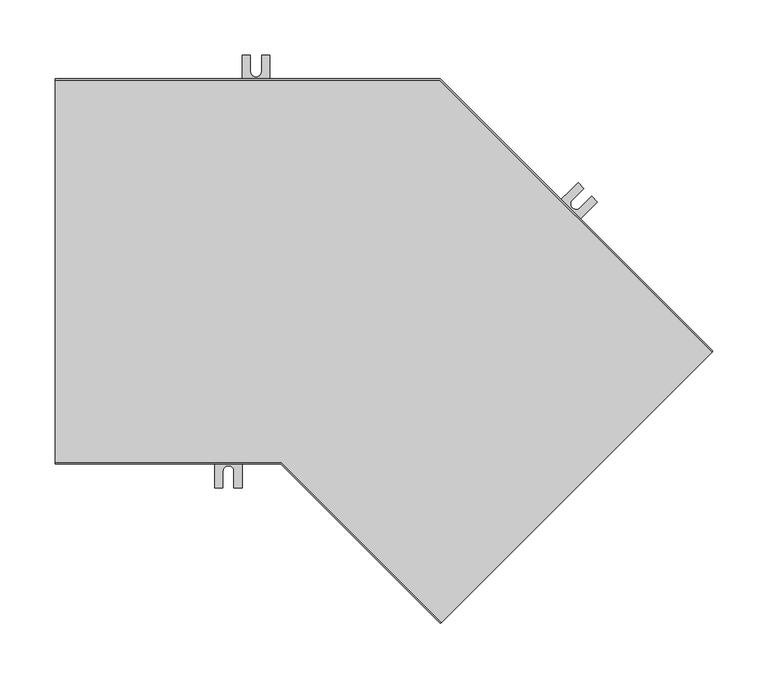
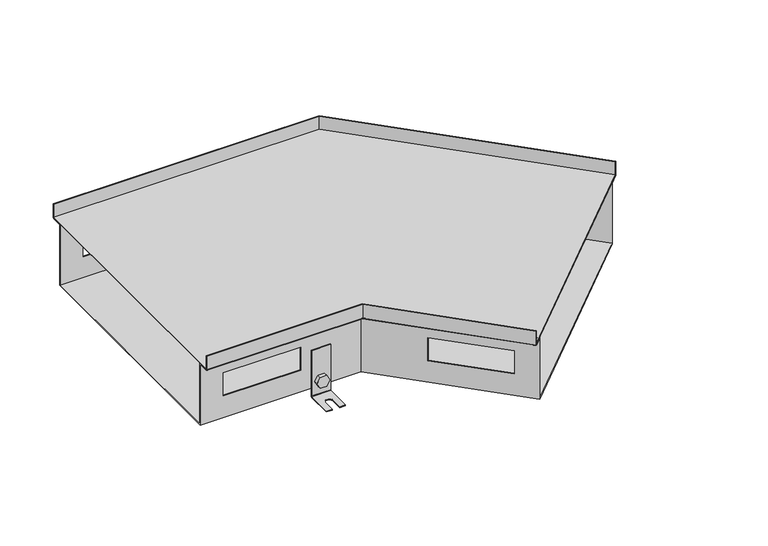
"""IFC4 building model written with IfcOpenShell, lengths in millimetres: proxy geometry, TECHNO_Угловой элемент_KVU : 350_105_135°."""

from ifc_helpers import new_model, si_unit, point, frame, frame_2d, origin, place, context, project, spatial, polyline, circle_curve, ellipse_curve, trimmed, segment, composite_curve, outline, extrude, source, transform, mapped, element, save
from ifc_brep_helpers import plane_surface, cylinder_surface, revolved_surface, advanced_brep


def mechanical_equipment_52aff5d5(model_context):
    return source(origin(), model_context, "Body", "SolidModel", [
        extrude(outline(composite_curve([segment(trimmed(circle_curve(frame_2d((0.0, -7.5000001)), 7.5), [point((0.0, -15.0))], [point((0.0, 0.0))], False, "CARTESIAN"), True, "CONTINUOUS"), segment(trimmed(circle_curve(frame_2d((0.0, -7.5000001)), 7.5), [point((0.0, 0.0))], [point((0.0, -15.0))], False, "CARTESIAN"), True, "CONTINUOUS")], self_intersect=False)), frame((422.4077344, -35.4349781, -95.5), z_axis=(0.7071067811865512, 0.7071067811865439, 0.0), x_axis=(0.0, 0.0, 1.0)), (0.0, 0.0, 1.0), 1.5),
        extrude(outline(polyline([(0.0, 0.0), (8.660254, 0.0), (12.990381, -7.5), (8.660254, -15.0), (0.0, -15.0), (-4.330127, -7.5), (0.0, 0.0)])), frame((406.5259365, -28.4627256, -95.5), z_axis=(0.7071067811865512, 0.7071067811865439, 0.0), x_axis=(0.3535533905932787, -0.3535533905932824, -0.8660254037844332)), (0.0, 0.0, 1.0), 5.1),
        advanced_brep(
        [(425.0947402, -39.8190401, -50.5), (425.0947402, -39.8190401, -113.5), (424.5290547, -40.3847255, -114.3), (401.194531, -63.7192493, -114.3), (401.194531, -63.7192493, -115.5), (424.5290547, -40.3847255, -115.5), (425.9432683, -38.970512, -113.5), (425.9432683, -38.970512, -50.5), (407.4170706, -22.1413706, -50.5), (408.2655988, -21.2928425, -50.5), (408.2655988, -21.2928425, -113.5), (406.8513852, -22.707056, -115.5), (383.5168614, -46.0415798, -115.5), (383.5168614, -46.0415798, -114.3), (406.8513852, -22.707056, -114.3), (407.4170706, -22.1413706, -113.5), (388.8201623, -51.3448807, -114.3), (399.426764, -40.7382789, -114.3), (406.4978318, -47.8093468, -114.3), (395.8912301, -58.4159485, -114.3), (395.8912301, -58.4159485, -115.5), (388.8201623, -51.3448807, -115.5), (406.4978318, -47.8093468, -115.5), (399.426764, -40.7382789, -115.5)],
        [
            (0, 1),
            (1, 2, circle_curve(frame((424.5290547, -40.3847255, -113.5), z_axis=(-0.7071067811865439, 0.7071067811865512, 0.0), x_axis=(-0.7071067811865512, -0.7071067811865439, 0.0)), 0.8)),
            (2, 3),
            (3, 4),
            (4, 5),
            (5, 6, circle_curve(frame((424.5290547, -40.3847255, -113.5), z_axis=(0.7071067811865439, -0.7071067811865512, 0.0), x_axis=(-0.7071067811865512, -0.7071067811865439, 0.0)), 2.0)),
            (6, 7),
            (7, 0),
            (8, 9),
            (9, 10),
            (10, 11, circle_curve(frame((406.8513852, -22.707056, -113.5), z_axis=(-0.7071067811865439, 0.7071067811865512, 0.0), x_axis=(-0.7071067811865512, -0.7071067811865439, 0.0)), 2.0)),
            (11, 12),
            (12, 13),
            (13, 14),
            (14, 15, circle_curve(frame((406.8513852, -22.707056, -113.5), z_axis=(0.7071067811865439, -0.7071067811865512, 0.0), x_axis=(-0.7071067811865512, -0.7071067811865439, 0.0)), 0.8)),
            (15, 8),
            (0, 8),
            (15, 1),
            (14, 2),
            (13, 16),
            (16, 17),
            (17, 18, circle_curve(frame((402.9622979, -44.2738128, -114.3), z_axis=(0.0, 0.0, -1.0), x_axis=(0.7071067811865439, -0.7071067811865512, 0.0)), 5.0)),
            (18, 19),
            (19, 3),
            (19, 20),
            (20, 4),
            (12, 21),
            (21, 16),
            (20, 22),
            (22, 23, circle_curve(frame((402.9622979, -44.2738128, -115.5), z_axis=(0.0, 0.0, 1.0), x_axis=(0.7071067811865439, -0.7071067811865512, 0.0)), 5.0)),
            (23, 21),
            (11, 5),
            (10, 6),
            (9, 7),
            (23, 17),
            (18, 22),
        ],
        [
            plane_surface(frame((425.0947402, -39.8190401, -50.5), z_axis=(0.7071067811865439, -0.7071067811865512, 0.0), x_axis=(0.0, 0.0, -1.0))),
            plane_surface(frame((407.4170706, -22.1413706, -50.5), z_axis=(-0.7071067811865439, 0.7071067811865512, 0.0), x_axis=(0.0, 0.0, 1.0))),
            plane_surface(frame((425.0947402, -39.8190401, -50.5), z_axis=(-0.7071067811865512, -0.7071067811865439, 0.0), x_axis=(-0.7071067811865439, 0.7071067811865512, 0.0))),
            revolved_surface(polyline([(406.2856997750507, -23.27274142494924, -113.5), (423.9633693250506, -40.950410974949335, -113.5)]), (406.8513852, -22.707056, -113.5), (-0.7071067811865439, 0.7071067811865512, 0.0)),
            plane_surface(frame((424.5290547, -40.3847255, -114.3), z_axis=(0.0, 0.0, 1.0), x_axis=(-0.7071067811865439, 0.7071067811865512, 0.0))),
            plane_surface(frame((401.194531, -63.7192493, -114.3), z_axis=(-0.7071067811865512, -0.7071067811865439, 0.0), x_axis=(-0.7071067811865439, 0.7071067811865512, 0.0))),
            plane_surface(frame((401.194531, -63.7192493, -115.5), z_axis=(0.0, 0.0, -1.0), x_axis=(-0.7071067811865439, 0.7071067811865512, 0.0))),
            cylinder_surface(frame((406.8513852, -22.707056, -113.5), z_axis=(0.7071067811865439, -0.7071067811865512, 0.0), x_axis=(-0.7071067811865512, -0.7071067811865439, 0.0)), 2.0),
            plane_surface(frame((425.9432683, -38.970512, -113.5), z_axis=(0.7071067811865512, 0.7071067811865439, 0.0), x_axis=(-0.7071067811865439, 0.7071067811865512, 0.0))),
            plane_surface(frame((425.9432683, -38.970512, -50.5), z_axis=(0.0, 0.0, 1.0), x_axis=(-0.7071067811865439, 0.7071067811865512, 0.0))),
            plane_surface(frame((399.426764, -40.7382789, -114.3), z_axis=(0.7071067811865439, -0.7071067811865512, 0.0), x_axis=(0.0, 0.0, -1.0))),
            plane_surface(frame((395.8912301, -58.4159485, -114.3), z_axis=(-0.707106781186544, 0.7071067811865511, 0.0), x_axis=(0.0, 0.0, -1.0))),
            revolved_surface(polyline([(406.4978318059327, -47.80934670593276, -114.3), (406.4978318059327, -47.80934670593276, -115.5)]), (402.9622979, -44.2738128, -115.5), (0.0, 0.0, 1.0)),
        ],
        [
            (0, [[1, 2, 3, 4, 5, 6, 7, 8]]),
            (1, [[9, 10, 11, 12, 13, 14, 15, 16]]),
            (2, [[-1, 17, -16, 18]]),
            (3, [[-2, -18, -15, 19]]),
            (4, [[-3, -19, -14, 20, 21, 22, 23, 24]]),
            (5, [[-4, -24, 25, 26]]),
            (5, [[-13, 27, 28, -20]]),
            (6, [[-5, -26, 29, 30, 31, -27, -12, 32]]),
            (7, [[-6, -32, -11, 33]]),
            (8, [[-7, -33, -10, 34]]),
            (9, [[-8, -34, -9, -17]]),
            (10, [[35, -21, -28, -31]]),
            (11, [[36, -29, -25, -23]]),
            (12, [[-35, -30, -36, -22]]),
        ],
    ),
        extrude(outline(composite_curve([segment(trimmed(circle_curve(frame_2d((0.0, -7.5)), 7.5), [point((0.0, -15.0))], [point((0.0, 0.0))], False, "CARTESIAN"), True, "CONTINUOUS"), segment(trimmed(circle_curve(frame_2d((0.0, -7.5)), 7.5), [point((0.0, 0.0))], [point((0.0, -15.0))], False, "CARTESIAN"), True, "CONTINUOUS")], self_intersect=False)), frame((452.6719046, 51.3977346, -95.5), z_axis=(0.7071067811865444, 0.7071067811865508, 0.0), x_axis=(0.0, 0.0, -1.0)), (0.0, 0.0, 1.0), 1.5),
        extrude(outline(polyline([(0.0, 0.0), (4.330127, -7.5), (0.0, -15.0000001), (-8.6602541, -15.0000001), (-12.9903811, -7.5000001), (-8.6602541, 0.0), (0.0, 0.0)])), frame((466.0081182, 41.8798977, -95.5), z_axis=(0.7071067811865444, 0.7071067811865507, 0.0), x_axis=(0.35355339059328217, -0.35355339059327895, 0.8660254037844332)), (0.0, 0.0, 1.0), 5.1),
        advanced_brep(
        [(451.045559, 56.8424569, -50.5), (451.045559, 56.8424569, -113.5), (451.6112445, 57.4081423, -114.3), (474.9457682, 80.7426661, -114.3), (474.9457682, 80.7426661, -115.5), (451.6112445, 57.4081423, -115.5), (450.1970309, 55.9939287, -113.5), (450.1970309, 55.9939287, -50.5), (468.7232286, 39.1647873, -50.5), (467.8747004, 38.3162592, -50.5), (467.8747004, 38.3162592, -113.5), (469.288914, 39.7304728, -115.5), (492.6234378, 63.0649965, -115.5), (492.6234378, 63.0649965, -114.3), (469.288914, 39.7304728, -114.3), (468.7232286, 39.1647873, -113.5), (487.3201369, 68.3682974, -114.3), (476.7135352, 57.7616957, -114.3), (469.6424674, 64.8327635, -114.3), (480.2490691, 75.4393652, -114.3), (480.2490691, 75.4393652, -115.5), (487.3201369, 68.3682974, -115.5), (469.6424674, 64.8327635, -115.5), (476.7135352, 57.7616957, -115.5)],
        [
            (0, 1),
            (1, 2, circle_curve(frame((451.6112445, 57.4081423, -113.5), z_axis=(0.7071067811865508, -0.7071067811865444, 0.0), x_axis=(0.7071067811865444, 0.7071067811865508, 0.0)), 0.8)),
            (2, 3),
            (3, 4),
            (4, 5),
            (5, 6, circle_curve(frame((451.6112445, 57.4081423, -113.5), z_axis=(-0.7071067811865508, 0.7071067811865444, 0.0), x_axis=(0.7071067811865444, 0.7071067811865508, 0.0)), 2.0)),
            (6, 7),
            (7, 0),
            (8, 9),
            (9, 10),
            (10, 11, circle_curve(frame((469.288914, 39.7304728, -113.5), z_axis=(0.7071067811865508, -0.7071067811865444, 0.0), x_axis=(0.7071067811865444, 0.7071067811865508, 0.0)), 2.0)),
            (11, 12),
            (12, 13),
            (13, 14),
            (14, 15, circle_curve(frame((469.288914, 39.7304728, -113.5), z_axis=(-0.7071067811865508, 0.7071067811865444, 0.0), x_axis=(0.7071067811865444, 0.7071067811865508, 0.0)), 0.8)),
            (15, 8),
            (0, 8),
            (15, 1),
            (14, 2),
            (13, 16),
            (16, 17),
            (17, 18, circle_curve(frame((473.1780013, 61.2972296, -114.3), z_axis=(0.0, 0.0, -1.0), x_axis=(-0.7071067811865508, 0.7071067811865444, 0.0)), 5.0)),
            (18, 19),
            (19, 3),
            (19, 20),
            (20, 4),
            (12, 21),
            (21, 16),
            (20, 22),
            (22, 23, circle_curve(frame((473.1780013, 61.2972296, -115.5), z_axis=(0.0, 0.0, 1.0), x_axis=(-0.7071067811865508, 0.7071067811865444, 0.0)), 5.0)),
            (23, 21),
            (11, 5),
            (10, 6),
            (9, 7),
            (23, 17),
            (18, 22),
        ],
        [
            plane_surface(frame((451.045559, 56.8424569, -50.5), z_axis=(-0.7071067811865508, 0.7071067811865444, 0.0), x_axis=(0.0, 0.0, -1.0))),
            plane_surface(frame((468.7232286, 39.1647873, -50.5), z_axis=(0.7071067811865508, -0.7071067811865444, 0.0), x_axis=(0.0, 0.0, 1.0))),
            plane_surface(frame((451.045559, 56.8424569, -50.5), z_axis=(0.7071067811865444, 0.7071067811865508, 0.0), x_axis=(0.7071067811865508, -0.7071067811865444, 0.0))),
            revolved_surface(polyline([(469.8545994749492, 40.29615817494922, -113.5), (452.1769298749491, 57.97382777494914, -113.5)]), (469.288914, 39.7304728, -113.5), (0.7071067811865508, -0.7071067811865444, 0.0)),
            plane_surface(frame((451.6112445, 57.4081423, -114.3), z_axis=(0.0, 0.0, 1.0000000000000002), x_axis=(0.7071067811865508, -0.7071067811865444, 0.0))),
            plane_surface(frame((474.9457682, 80.7426661, -114.3), z_axis=(0.7071067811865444, 0.7071067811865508, 0.0), x_axis=(0.7071067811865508, -0.7071067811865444, 0.0))),
            plane_surface(frame((474.9457682, 80.7426661, -115.5), z_axis=(0.0, 0.0, -1.0000000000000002), x_axis=(0.7071067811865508, -0.7071067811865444, 0.0))),
            cylinder_surface(frame((469.288914, 39.7304728, -113.5), z_axis=(-0.7071067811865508, 0.7071067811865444, 0.0), x_axis=(0.7071067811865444, 0.7071067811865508, 0.0)), 2.0),
            plane_surface(frame((450.1970309, 55.9939287, -113.5), z_axis=(-0.7071067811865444, -0.7071067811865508, 0.0), x_axis=(0.7071067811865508, -0.7071067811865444, 0.0))),
            plane_surface(frame((450.1970309, 55.9939287, -50.5), z_axis=(0.0, 0.0, 1.0000000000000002), x_axis=(0.7071067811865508, -0.7071067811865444, 0.0))),
            plane_surface(frame((476.7135352, 57.7616957, -114.3), z_axis=(-0.7071067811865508, 0.7071067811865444, 0.0), x_axis=(0.0, 0.0, -1.0))),
            plane_surface(frame((480.2490691, 75.4393652, -114.3), z_axis=(0.7071067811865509, -0.7071067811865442, 0.0), x_axis=(0.0, 0.0, -1.0))),
            revolved_surface(polyline([(469.64246739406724, 64.83276350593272, -114.3), (469.64246739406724, 64.83276350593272, -115.5)]), (473.1780013, 61.2972296, -115.5), (0.0, 0.0, 1.0)),
        ],
        [
            (0, [[1, 2, 3, 4, 5, 6, 7, 8]]),
            (1, [[9, 10, 11, 12, 13, 14, 15, 16]]),
            (2, [[-1, 17, -16, 18]]),
            (3, [[-2, -18, -15, 19]]),
            (4, [[-3, -19, -14, 20, 21, 22, 23, 24]]),
            (5, [[-4, -24, 25, 26]]),
            (5, [[-13, 27, 28, -20]]),
            (6, [[-5, -26, 29, 30, 31, -27, -12, 32]]),
            (7, [[-6, -32, -11, 33]]),
            (8, [[-7, -33, -10, 34]]),
            (9, [[-8, -34, -9, -17]]),
            (10, [[35, -21, -28, -31]]),
            (11, [[36, -29, -25, -23]]),
            (12, [[-35, -30, -36, -22]]),
        ],
    ),
        extrude(outline(composite_curve([segment(trimmed(circle_curve(frame_2d((-95.5, 182.5)), 7.5), [point((-95.5, 175.0))], [point((-95.5, 190.0))], False, "CARTESIAN"), True, "CONTINUOUS"), segment(trimmed(circle_curve(frame_2d((-95.5, 182.5)), 7.5), [point((-95.5, 190.0))], [point((-95.5, 175.0))], False, "CARTESIAN"), True, "CONTINUOUS")], self_intersect=False)), frame((0.0, 160.2, 0.0), z_axis=(0.0, 1.0, 0.0), x_axis=(0.0, 0.0, 1.0)), (0.0, 0.0, 1.0), 1.5),
        extrude(outline(polyline([(-95.5, 173.839746), (-103.0, 178.169873), (-103.0, 186.830127), (-95.5, 191.160254), (-88.0, 186.830127), (-88.0, 178.169873), (-95.5, 173.839746)])), frame((0.0, 162.9, 0.0), z_axis=(0.0, 1.0, 0.0), x_axis=(0.0, 0.0, 1.0)), (0.0, 0.0, 1.0), 5.1),
        advanced_brep(
        [(195.0, 162.9, -50.5), (195.0, 161.7, -50.5), (195.0, 161.7, -113.5), (195.0, 163.7, -115.5), (195.0, 196.7, -115.5), (195.0, 196.7, -114.3), (195.0, 163.7, -114.3), (195.0, 162.9, -113.5), (170.0, 162.9, -50.5), (170.0, 162.9, -113.5), (170.0, 163.7, -114.3), (170.0, 196.7, -114.3), (170.0, 196.7, -115.5), (170.0, 163.7, -115.5), (170.0, 161.7, -113.5), (170.0, 161.7, -50.5), (187.5, 196.7, -114.3), (187.5, 181.7, -114.3), (177.5, 181.7, -114.3), (177.5, 196.7, -114.3), (177.5, 196.7, -115.5), (187.5, 196.7, -115.5), (177.5, 181.7, -115.5), (187.5, 181.7, -115.5)],
        [
            (0, 1),
            (1, 2),
            (2, 3, circle_curve(frame((195.0, 163.7, -113.5), z_axis=(1.0, 0.0, 0.0), x_axis=(0.0, 1.0, 0.0)), 2.0)),
            (3, 4),
            (4, 5),
            (5, 6),
            (6, 7, circle_curve(frame((195.0, 163.7, -113.5), z_axis=(-1.0, 0.0, 0.0), x_axis=(0.0, 1.0, 0.0)), 0.8)),
            (7, 0),
            (8, 9),
            (9, 10, circle_curve(frame((170.0, 163.7, -113.5), z_axis=(1.0, 0.0, 0.0), x_axis=(0.0, 1.0, 0.0)), 0.8)),
            (10, 11),
            (11, 12),
            (12, 13),
            (13, 14, circle_curve(frame((170.0, 163.7, -113.5), z_axis=(-1.0, 0.0, 0.0), x_axis=(0.0, 1.0, 0.0)), 2.0)),
            (14, 15),
            (15, 8),
            (7, 9),
            (8, 0),
            (6, 10),
            (5, 16),
            (16, 17),
            (17, 18, circle_curve(frame((182.5, 181.7, -114.3), z_axis=(0.0, 0.0, -1.0), x_axis=(1.0, 0.0, 0.0)), 5.0)),
            (18, 19),
            (19, 11),
            (19, 20),
            (20, 12),
            (4, 21),
            (21, 16),
            (3, 13),
            (20, 22),
            (22, 23, circle_curve(frame((182.5, 181.7, -115.5), z_axis=(0.0, 0.0, 1.0), x_axis=(1.0, 0.0, 0.0)), 5.0)),
            (23, 21),
            (2, 14),
            (1, 15),
            (18, 22),
            (23, 17),
        ],
        [
            plane_surface(frame((195.0, 162.9, -50.5), z_axis=(1.0, 0.0, 0.0), x_axis=(0.0, 0.0, -1.0))),
            plane_surface(frame((170.0, 162.9, -50.5), z_axis=(-1.0, 0.0, 0.0), x_axis=(0.0, 0.0, 1.0))),
            plane_surface(frame((195.0, 162.9, -50.5), z_axis=(0.0, 1.0, 0.0), x_axis=(-1.0, 0.0, 0.0))),
            revolved_surface(polyline([(170.0, 164.5, -113.5), (195.0, 164.5, -113.5)]), (170.0, 163.7, -113.5), (-1.0, 0.0, 0.0)),
            plane_surface(frame((195.0, 163.7, -114.3), z_axis=(0.0, 0.0, 1.0), x_axis=(-1.0, 0.0, 0.0))),
            plane_surface(frame((195.0, 196.7, -114.3), z_axis=(0.0, 1.0, 0.0), x_axis=(-1.0, 0.0, 0.0))),
            plane_surface(frame((195.0, 196.7, -115.5), z_axis=(0.0, 0.0, -1.0), x_axis=(-1.0, 0.0, 0.0))),
            cylinder_surface(frame((170.0, 163.7, -113.5), z_axis=(1.0, 0.0, 0.0), x_axis=(0.0, 1.0, 0.0)), 2.0),
            plane_surface(frame((195.0, 161.7, -113.5), z_axis=(0.0, -1.0, 0.0), x_axis=(-1.0, 0.0, 0.0))),
            plane_surface(frame((195.0, 161.7, -50.5), z_axis=(0.0, 0.0, 1.0), x_axis=(-1.0, 0.0, 0.0))),
            plane_surface(frame((177.5, 181.7, -114.3), z_axis=(1.0, 0.0, 0.0), x_axis=(0.0, 0.0, -1.0))),
            plane_surface(frame((187.5, 196.7, -114.3), z_axis=(-1.0, 0.0, 0.0), x_axis=(0.0, 0.0, -1.0))),
            revolved_surface(polyline([(187.5, 181.7, -114.3), (187.5, 181.7, -115.5)]), (182.5, 181.7, -115.5), (0.0, 0.0, 1.0)),
        ],
        [
            (0, [[1, 2, 3, 4, 5, 6, 7, 8]]),
            (1, [[9, 10, 11, 12, 13, 14, 15, 16]]),
            (2, [[17, -9, 18, -8]]),
            (3, [[19, -10, -17, -7]]),
            (4, [[20, 21, 22, 23, 24, -11, -19, -6]]),
            (5, [[-24, 25, 26, -12]]),
            (5, [[27, 28, -20, -5]]),
            (6, [[29, -13, -26, 30, 31, 32, -27, -4]]),
            (7, [[33, -14, -29, -3]]),
            (8, [[34, -15, -33, -2]]),
            (9, [[-18, -16, -34, -1]]),
            (10, [[-30, -25, -23, 35]]),
            (11, [[-21, -28, -32, 36]]),
            (12, [[-22, -36, -31, -35]]),
        ],
    ),
        extrude(outline(composite_curve([segment(trimmed(circle_curve(frame_2d((-95.5, 157.5)), 7.5), [point((-95.5, 150.0))], [point((-95.5, 165.0))], False, "CARTESIAN"), True, "CONTINUOUS"), segment(trimmed(circle_curve(frame_2d((-95.5, 157.5)), 7.5), [point((-95.5, 165.0))], [point((-95.5, 150.0))], False, "CARTESIAN"), True, "CONTINUOUS")], self_intersect=False)), frame((0.0, -161.7, 0.0), z_axis=(0.0, 1.0, 0.0), x_axis=(0.0, 0.0, 1.0)), (0.0, 0.0, 1.0), 1.5),
        extrude(outline(polyline([(-95.5, 148.839746), (-103.0, 153.169873), (-103.0, 161.830127), (-95.5, 166.160254), (-88.0, 161.830127), (-88.0, 153.169873), (-95.5, 148.839746)])), frame((0.0, -168.0, 0.0), z_axis=(0.0, 1.0, 0.0), x_axis=(0.0, 0.0, 1.0)), (0.0, 0.0, 1.0), 5.1),
        advanced_brep(
        [(170.0, -162.9, -50.5), (170.0, -162.9, -113.5), (170.0, -163.7, -114.3), (170.0, -196.7, -114.3), (170.0, -196.7, -115.5), (170.0, -163.7, -115.5), (170.0, -161.7, -113.5), (170.0, -161.7, -50.5), (145.0, -162.9, -50.5), (145.0, -161.7, -50.5), (145.0, -161.7, -113.5), (145.0, -163.7, -115.5), (145.0, -196.7, -115.5), (145.0, -196.7, -114.3), (145.0, -163.7, -114.3), (145.0, -162.9, -113.5), (152.5, -196.7, -114.3), (152.5, -181.7, -114.3), (162.5, -181.7, -114.3), (162.5, -196.7, -114.3), (162.5, -196.7, -115.5), (152.5, -196.7, -115.5), (162.5, -181.7, -115.5), (152.5, -181.7, -115.5)],
        [
            (0, 1),
            (1, 2, circle_curve(frame((170.0, -163.7, -113.5), z_axis=(-1.0, 0.0, 0.0), x_axis=(0.0, -1.0, 0.0)), 0.8)),
            (2, 3),
            (3, 4),
            (4, 5),
            (5, 6, circle_curve(frame((170.0, -163.7, -113.5), z_axis=(1.0, 0.0, 0.0), x_axis=(0.0, -1.0, 0.0)), 2.0)),
            (6, 7),
            (7, 0),
            (8, 9),
            (9, 10),
            (10, 11, circle_curve(frame((145.0, -163.7, -113.5), z_axis=(-1.0, 0.0, 0.0), x_axis=(0.0, -1.0, 0.0)), 2.0)),
            (11, 12),
            (12, 13),
            (13, 14),
            (14, 15, circle_curve(frame((145.0, -163.7, -113.5), z_axis=(1.0, 0.0, 0.0), x_axis=(0.0, -1.0, 0.0)), 0.8)),
            (15, 8),
            (0, 8),
            (15, 1),
            (14, 2),
            (13, 16),
            (16, 17),
            (17, 18, circle_curve(frame((157.5, -181.7, -114.3), z_axis=(0.0, 0.0, -1.0), x_axis=(1.0, 0.0, 0.0)), 5.0)),
            (18, 19),
            (19, 3),
            (19, 20),
            (20, 4),
            (12, 21),
            (21, 16),
            (20, 22),
            (22, 23, circle_curve(frame((157.5, -181.7, -115.5), z_axis=(0.0, 0.0, 1.0), x_axis=(1.0, 0.0, 0.0)), 5.0)),
            (23, 21),
            (11, 5),
            (10, 6),
            (9, 7),
            (23, 17),
            (18, 22),
        ],
        [
            plane_surface(frame((170.0, -162.9, -50.5), z_axis=(1.0, 0.0, 0.0), x_axis=(0.0, 0.0, -1.0))),
            plane_surface(frame((145.0, -162.9, -50.5), z_axis=(-1.0, 0.0, 0.0), x_axis=(0.0, 0.0, 1.0))),
            plane_surface(frame((170.0, -162.9, -50.5), z_axis=(0.0, -1.0, 0.0), x_axis=(-1.0, 0.0, 0.0))),
            revolved_surface(polyline([(145.0, -164.5, -113.5), (170.0, -164.5, -113.5)]), (145.0, -163.7, -113.5), (-1.0, 0.0, 0.0)),
            plane_surface(frame((170.0, -163.7, -114.3), z_axis=(0.0, 0.0, 1.0), x_axis=(-1.0, 0.0, 0.0))),
            plane_surface(frame((170.0, -196.7, -114.3), z_axis=(0.0, -1.0, 0.0), x_axis=(-1.0, 0.0, 0.0))),
            plane_surface(frame((170.0, -196.7, -115.5), z_axis=(0.0, 0.0, -1.0), x_axis=(-1.0, 0.0, 0.0))),
            cylinder_surface(frame((145.0, -163.7, -113.5), z_axis=(1.0, 0.0, 0.0), x_axis=(0.0, -1.0, 0.0)), 2.0),
            plane_surface(frame((170.0, -161.7, -113.5), z_axis=(0.0, 1.0, 0.0), x_axis=(-1.0, 0.0, 0.0))),
            plane_surface(frame((170.0, -161.7, -50.5), z_axis=(0.0, 0.0, 1.0), x_axis=(-1.0, 0.0, 0.0))),
            plane_surface(frame((152.5, -181.7, -114.3), z_axis=(1.0, 0.0, 0.0), x_axis=(0.0, 0.0, -1.0))),
            plane_surface(frame((162.5, -196.7, -114.3), z_axis=(-1.0, 0.0, 0.0), x_axis=(0.0, 0.0, -1.0))),
            revolved_surface(polyline([(162.5, -181.7, -114.3), (162.5, -181.7, -115.5)]), (157.5, -181.7, -115.5), (0.0, 0.0, 1.0)),
        ],
        [
            (0, [[1, 2, 3, 4, 5, 6, 7, 8]]),
            (1, [[9, 10, 11, 12, 13, 14, 15, 16]]),
            (2, [[-1, 17, -16, 18]]),
            (3, [[-2, -18, -15, 19]]),
            (4, [[-3, -19, -14, 20, 21, 22, 23, 24]]),
            (5, [[-4, -24, 25, 26]]),
            (5, [[-13, 27, 28, -20]]),
            (6, [[-5, -26, 29, 30, 31, -27, -12, 32]]),
            (7, [[-6, -32, -11, 33]]),
            (8, [[-7, -33, -10, 34]]),
            (9, [[-8, -34, -9, -17]]),
            (10, [[35, -21, -28, -31]]),
            (11, [[36, -29, -25, -23]]),
            (12, [[-35, -30, -36, -22]]),
        ],
    ),
        extrude(outline(polyline([(596.6388453, -73.3359016), (350.8485281, -319.1262187), (205.5223094, -173.8), (0.0, -173.8), (0.0, 173.8), (349.5029437, 173.8), (596.6388453, -73.3359016)])), frame((0.0, 0.0, -19.3), z_axis=(0.0, 0.0, 1.0), x_axis=(1.0, 0.0, 0.0)), (0.0, 0.0, 1.0), 1.2),
        advanced_brep(
        [(350.0, -319.9747468, -19.3), (350.8485281, -319.1262187, -20.5), (360.4651804, -309.5095665, -20.5), (360.4651804, -309.5095665, -105.0), (587.0221931, -82.9525538, -105.0), (587.0221931, -82.9525538, -20.5), (596.6388453, -73.3359016, -20.5), (597.4873734, -72.4873734, -19.3), (597.4873734, -72.4873734, 0.0), (596.6388453, -73.3359016, 0.0), (596.6388453, -73.3359016, -19.3), (587.0221931, -82.9525538, -19.3), (586.1736649, -83.8010819, -20.5), (586.1736649, -83.8010819, -103.8), (361.3137085, -308.6610383, -103.8), (361.3137085, -308.6610383, -20.5), (360.4651804, -309.5095665, -19.3), (350.8485281, -319.1262187, -19.3), (350.8485281, -319.1262187, 0.0), (350.0, -319.9747468, 0.0), (0.0, -175.0, -19.3), (0.0, -175.0, 0.0), (0.0, -173.8, 0.0), (0.0, -173.8, -19.3), (0.0, -160.2, -19.3), (0.0, -159.0, -20.5), (0.0, -159.0, -103.8), (0.0, 159.0, -103.8), (0.0, 159.0, -20.5), (0.0, 160.2, -19.3), (0.0, 173.8, -19.3), (0.0, 173.8, 0.0), (0.0, 175.0, 0.0), (0.0, 175.0, -19.3), (0.0, 173.8, -20.5), (0.0, 160.2, -20.5), (0.0, 160.2, -105.0), (0.0, -160.2, -105.0), (0.0, -160.2, -20.5), (0.0, -173.8, -20.5), (205.5223094, -173.8, -20.5), (205.0252532, -175.0, -19.3), (205.5223094, -173.8, 0.0), (205.5223094, -173.8, -19.3), (211.1556139, -160.2, -105.0), (211.1556139, -160.2, -20.5), (30.0, -160.2, -43.0), (132.0, -160.2, -43.0), (132.0, -160.2, -75.0), (30.0, -160.2, -75.0), (211.6526702, -159.0, -20.5), (211.6526702, -159.0, -103.8), (132.0, -159.0, -43.0), (30.0, -159.0, -43.0), (30.0, -159.0, -75.0), (132.0, -159.0, -75.0), (211.1556139, -160.2, -19.3), (267.1270852, -216.1714714, -43.0), (339.2519769, -288.296363, -43.0), (339.2519769, -288.296363, -75.0), (267.1270852, -216.1714714, -75.0), (343.8696393, 160.2, -105.0), (343.372583, 159.0, -103.8), (340.1005051, -287.4478349, -43.0), (267.9756134, -215.3229432, -43.0), (267.9756134, -215.3229432, -75.0), (340.1005051, -287.4478349, -75.0), (205.0252532, -175.0, 0.0), (343.8696393, 160.2, -20.5), (565.8089896, -61.7393503, -43.0), (493.6840979, 10.3855413, -43.0), (493.6840979, 10.3855413, -75.0), (565.8089896, -61.7393503, -75.0), (349.5029437, 173.8, -20.5), (350.0, 175.0, -19.3), (350.0, 175.0, 0.0), (349.5029437, 173.8, 0.0), (349.5029437, 173.8, -19.3), (343.8696393, 160.2, -19.3), (343.372583, 159.0, -20.5), (492.8355698, 9.5370132, -43.0), (564.9604615, -62.5878785, -43.0), (564.9604615, -62.5878785, -75.0), (492.8355698, 9.5370132, -75.0), (132.0, 160.2, -43.0), (30.0, 160.2, -43.0), (30.0, 160.2, -75.0), (132.0, 160.2, -75.0), (30.0, 159.0, -43.0), (132.0, 159.0, -43.0), (132.0, 159.0, -75.0), (30.0, 159.0, -75.0)],
        [
            (0, 1, circle_curve(frame((350.8485281, -319.1262187, -19.3), z_axis=(0.707106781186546, -0.707106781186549, 0.0), x_axis=(-0.707106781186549, -0.707106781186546, 0.0)), 1.2)),
            (1, 2),
            (2, 3),
            (3, 4),
            (4, 5),
            (5, 6),
            (6, 7, circle_curve(frame((596.6388453, -73.3359016, -19.3), z_axis=(0.707106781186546, -0.707106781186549, 0.0), x_axis=(-0.707106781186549, -0.707106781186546, 0.0)), 1.2)),
            (7, 8),
            (8, 9),
            (9, 10),
            (10, 11),
            (11, 12, circle_curve(frame((587.0221931, -82.9525538, -20.5), z_axis=(0.707106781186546, -0.707106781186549, 0.0), x_axis=(-0.707106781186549, -0.707106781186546, 0.0)), 1.2)),
            (12, 13),
            (13, 14),
            (14, 15),
            (15, 16, circle_curve(frame((360.4651804, -309.5095665, -20.5), z_axis=(0.707106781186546, -0.707106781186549, 0.0), x_axis=(-0.707106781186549, -0.707106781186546, 0.0)), 1.2)),
            (16, 17),
            (17, 18),
            (18, 19),
            (19, 0),
            (20, 21),
            (21, 22),
            (22, 23),
            (23, 24),
            (24, 25, circle_curve(frame((0.0, -160.2, -20.5), z_axis=(-1.0, 0.0, 0.0), x_axis=(0.0, -1.0, 0.0)), 1.2)),
            (25, 26),
            (26, 27),
            (27, 28),
            (28, 29, circle_curve(frame((0.0, 160.2, -20.5), z_axis=(-1.0, 0.0, 0.0), x_axis=(0.0, -1.0, 0.0)), 1.2)),
            (29, 30),
            (30, 31),
            (31, 32),
            (32, 33),
            (33, 34, circle_curve(frame((0.0, 173.8, -19.3), z_axis=(-1.0, 0.0, 0.0), x_axis=(0.0, -1.0, 0.0)), 1.2)),
            (34, 35),
            (35, 36),
            (36, 37),
            (37, 38),
            (38, 39),
            (39, 20, circle_curve(frame((0.0, -173.8, -19.3), z_axis=(-1.0, 0.0, 0.0), x_axis=(0.0, -1.0, 0.0)), 1.2)),
            (39, 40),
            (40, 41, ellipse_curve(frame((205.5223094, -173.8, -19.3), z_axis=(-0.9238795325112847, 0.3826834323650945, 0.0), x_axis=(0.3826834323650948, 0.9238795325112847, 0.0)), 1.2988706, 1.2)),
            (41, 20),
            (22, 42),
            (42, 43),
            (43, 23),
            (37, 44),
            (44, 45),
            (45, 38),
            (46, 47),
            (47, 48),
            (48, 49),
            (49, 46),
            (25, 50),
            (50, 51),
            (51, 26),
            (52, 53),
            (53, 54),
            (54, 55),
            (55, 52),
            (24, 56),
            (56, 50, ellipse_curve(frame((211.1556139, -160.2, -20.5), z_axis=(-0.9238795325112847, 0.3826834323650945, 0.0), x_axis=(0.3826834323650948, 0.9238795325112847, 0.0)), 1.2988706, 1.2)),
            (0, 41),
            (40, 1),
            (45, 2),
            (44, 3),
            (57, 58),
            (58, 59),
            (59, 60),
            (60, 57),
            (36, 61),
            (61, 4),
            (13, 62),
            (62, 27),
            (51, 14),
            (50, 15),
            (63, 64),
            (64, 65),
            (65, 66),
            (66, 63),
            (56, 16),
            (43, 17),
            (42, 18),
            (21, 67),
            (67, 19),
            (61, 68),
            (68, 5),
            (69, 70),
            (70, 71),
            (71, 72),
            (72, 69),
            (68, 35),
            (34, 73),
            (73, 6),
            (73, 74, ellipse_curve(frame((349.5029437, 173.8, -19.3), z_axis=(0.9238795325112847, -0.3826834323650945, 0.0), x_axis=(-0.38268343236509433, -0.9238795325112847, 0.0)), 1.2988706, 1.2)),
            (74, 7),
            (74, 75),
            (75, 8),
            (75, 32),
            (31, 76),
            (76, 9),
            (76, 77),
            (77, 10),
            (77, 30),
            (29, 78),
            (78, 11),
            (78, 79, ellipse_curve(frame((343.8696393, 160.2, -20.5), z_axis=(0.9238795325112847, -0.3826834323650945, 0.0), x_axis=(-0.38268343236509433, -0.9238795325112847, 0.0)), 1.2988706, 1.2)),
            (79, 12),
            (79, 62),
            (80, 81),
            (81, 82),
            (82, 83),
            (83, 80),
            (84, 85),
            (85, 86),
            (86, 87),
            (87, 84),
            (33, 74),
            (28, 79),
            (88, 89),
            (89, 90),
            (90, 91),
            (91, 88),
            (41, 67),
            (46, 53),
            (52, 47),
            (88, 85),
            (84, 89),
            (49, 54),
            (91, 86),
            (48, 55),
            (90, 87),
            (57, 64),
            (63, 58),
            (80, 70),
            (69, 81),
            (66, 59),
            (72, 82),
            (65, 60),
            (71, 83),
        ],
        [
            plane_surface(frame((473.7436867, -196.2310601, 0.0), z_axis=(0.707106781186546, -0.707106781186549, 0.0), x_axis=(0.0, 0.0, 1.0))),
            plane_surface(frame((0.0, 0.0, 0.0), z_axis=(-1.0, 0.0, 0.0), x_axis=(0.0, 0.0, 1.0))),
            cylinder_surface(frame((277.5126266, -173.8, -19.3), z_axis=(1.0, 0.0, 0.0), x_axis=(0.0, -1.0, 0.0)), 1.2),
            plane_surface(frame((205.5223094, -173.8, -19.3), z_axis=(0.0, 1.0, 0.0), x_axis=(-1.0, 0.0, 0.0))),
            plane_surface(frame((211.1556139, -160.2, -20.5), z_axis=(0.0, -1.0, 0.0), x_axis=(-1.0, 0.0, 0.0))),
            plane_surface(frame((211.6526702, -159.0, -103.8), z_axis=(0.0, 1.0, 0.0), x_axis=(-1.0, 0.0, 0.0))),
            cylinder_surface(frame((277.5126266, -160.2, -20.5), z_axis=(1.0, 0.0, 0.0), x_axis=(0.0, -1.0, 0.0)), 1.2),
            cylinder_surface(frame((350.8485281, -319.1262187, -19.3), z_axis=(0.707106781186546, -0.707106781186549, 0.0), x_axis=(-0.707106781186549, -0.707106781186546, 0.0)), 1.2),
            plane_surface(frame((350.8485281, -319.1262187, -20.5), z_axis=(0.0, 0.0, -1.0), x_axis=(-0.7071067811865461, 0.7071067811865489, 0.0))),
            plane_surface(frame((360.4651804, -309.5095665, -20.5), z_axis=(-0.7071067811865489, -0.7071067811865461, 0.0), x_axis=(-0.7071067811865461, 0.7071067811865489, 0.0))),
            plane_surface(frame((360.4651804, -309.5095665, -105.0), z_axis=(0.0, 0.0, -1.0), x_axis=(-0.7071067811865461, 0.707106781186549, 0.0))),
            plane_surface(frame((586.1736649, -83.8010819, -103.8), z_axis=(0.0, 0.0, 1.0), x_axis=(-0.7071067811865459, 0.7071067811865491, 0.0))),
            plane_surface(frame((361.3137085, -308.6610383, -103.8), z_axis=(0.7071067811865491, 0.707106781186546, 0.0), x_axis=(-0.707106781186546, 0.7071067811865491, 0.0))),
            cylinder_surface(frame((360.4651804, -309.5095665, -20.5), z_axis=(0.707106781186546, -0.707106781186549, 0.0), x_axis=(-0.707106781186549, -0.707106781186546, 0.0)), 1.2),
            plane_surface(frame((360.4651804, -309.5095665, -19.3), z_axis=(0.0, 0.0, 1.0), x_axis=(-0.707106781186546, 0.707106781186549, 0.0))),
            plane_surface(frame((350.8485281, -319.1262187, -19.3), z_axis=(0.7071067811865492, 0.7071067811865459, 0.0), x_axis=(-0.7071067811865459, 0.7071067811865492, 0.0))),
            plane_surface(frame((350.8485281, -319.1262187, 0.0), z_axis=(0.0, 0.0, 1.0000000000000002), x_axis=(-0.7071067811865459, 0.7071067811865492, 0.0))),
            plane_surface(frame((587.0221931, -82.9525538, -105.0), z_axis=(0.7071067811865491, 0.7071067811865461, 0.0), x_axis=(-0.7071067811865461, 0.7071067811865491, 0.0))),
            plane_surface(frame((587.0221931, -82.9525538, -20.5), z_axis=(0.0, 0.0, -1.0000000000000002), x_axis=(-0.7071067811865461, 0.7071067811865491, 0.0))),
            cylinder_surface(frame((596.6388453, -73.3359016, -19.3), z_axis=(0.707106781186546, -0.707106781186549, 0.0), x_axis=(-0.707106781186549, -0.707106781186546, 0.0)), 1.2),
            plane_surface(frame((597.4873734, -72.4873734, -19.3), z_axis=(0.707106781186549, 0.707106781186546, 0.0), x_axis=(-0.707106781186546, 0.707106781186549, 0.0))),
            plane_surface(frame((597.4873734, -72.4873734, 0.0), z_axis=(0.0, 0.0, 1.0), x_axis=(-0.707106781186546, 0.707106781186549, 0.0))),
            plane_surface(frame((596.6388453, -73.3359016, 0.0), z_axis=(-0.707106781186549, -0.707106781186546, 0.0), x_axis=(-0.707106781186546, 0.707106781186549, 0.0))),
            plane_surface(frame((596.6388453, -73.3359016, -19.3), z_axis=(0.0, 0.0, 1.0000000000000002), x_axis=(-0.7071067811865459, 0.7071067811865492, 0.0))),
            cylinder_surface(frame((587.0221931, -82.9525538, -20.5), z_axis=(0.707106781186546, -0.707106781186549, 0.0), x_axis=(-0.707106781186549, -0.707106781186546, 0.0)), 1.2),
            plane_surface(frame((586.1736649, -83.8010819, -20.5), z_axis=(-0.7071067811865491, -0.7071067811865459, 0.0), x_axis=(-0.7071067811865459, 0.7071067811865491, 0.0))),
            plane_surface(frame((343.8696393, 160.2, -105.0), z_axis=(0.0, 1.0, 0.0), x_axis=(-1.0, 0.0, 0.0))),
            cylinder_surface(frame((277.5126266, 173.8, -19.3), z_axis=(1.0, 0.0, 0.0), x_axis=(0.0, -1.0, 0.0)), 1.2),
            plane_surface(frame((350.0, 175.0, -19.3), z_axis=(0.0, 1.0, 0.0), x_axis=(-1.0, 0.0, 0.0))),
            plane_surface(frame((349.5029437, 173.8, 0.0), z_axis=(0.0, -1.0, 0.0), x_axis=(-1.0, 0.0, 0.0))),
            cylinder_surface(frame((277.5126266, 160.2, -20.5), z_axis=(1.0, 0.0, 0.0), x_axis=(0.0, -1.0, 0.0)), 1.2),
            plane_surface(frame((343.372583, 159.0, -20.5), z_axis=(0.0, -1.0, 0.0), x_axis=(-1.0, 0.0, 0.0))),
            plane_surface(frame((205.0252532, -175.0, 0.0), z_axis=(0.0, -1.0, 0.0), x_axis=(-1.0, 0.0, 0.0))),
            plane_surface(frame((350.0, -319.9747468, 0.0), z_axis=(-0.707106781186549, -0.707106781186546, 0.0), x_axis=(-0.707106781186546, 0.707106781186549, 0.0))),
            plane_surface(frame((30.0, 175.0, -43.0), z_axis=(0.0, 0.0, -1.0), x_axis=(0.0, -1.0, 0.0))),
            plane_surface(frame((30.0, 175.0, -75.0), z_axis=(1.0, 0.0, 0.0), x_axis=(0.0, -1.0, 0.0))),
            plane_surface(frame((132.0, 175.0, -75.0), z_axis=(0.0, 0.0, 1.0), x_axis=(0.0, -1.0, 0.0))),
            plane_surface(frame((132.0, 175.0, -43.0), z_axis=(-1.0, 0.0, 0.0), x_axis=(0.0, -1.0, 0.0))),
            plane_surface(frame((504.1492783, 20.8507217, -43.0), z_axis=(0.0, 0.0, -1.0), x_axis=(-0.707106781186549, -0.7071067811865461, 0.0))),
            plane_surface(frame((576.27417, -51.27417, -43.0), z_axis=(-0.7071067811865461, 0.7071067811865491, 0.0), x_axis=(-0.7071067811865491, -0.7071067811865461, 0.0))),
            plane_surface(frame((576.27417, -51.27417, -75.0), z_axis=(0.0, 0.0, 1.0000000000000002), x_axis=(-0.7071067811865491, -0.7071067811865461, 0.0))),
            plane_surface(frame((504.1492783, 20.8507217, -75.0), z_axis=(0.7071067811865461, -0.707106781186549, 0.0), x_axis=(-0.707106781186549, -0.7071067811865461, 0.0))),
        ],
        [
            (0, [[1, 2, 3, 4, 5, 6, 7, 8, 9, 10, 11, 12, 13, 14, 15, 16, 17, 18, 19, 20]]),
            (1, [[21, 22, 23, 24, 25, 26, 27, 28, 29, 30, 31, 32, 33, 34, 35, 36, 37, 38, 39, 40]]),
            (2, [[-40, 41, 42, 43]]),
            (3, [[-23, 44, 45, 46]]),
            (4, [[-38, 47, 48, 49], [50, 51, 52, 53]]),
            (5, [[-26, 54, 55, 56], [57, 58, 59, 60]]),
            (6, [[-25, 61, 62, -54]]),
            (7, [[-1, 63, -42, 64]]),
            (8, [[-2, -64, -41, -39, -49, 65]]),
            (9, [[-3, -65, -48, 66], [67, 68, 69, 70]]),
            (10, [[-4, -66, -47, -37, 71, 72]]),
            (11, [[-14, 73, 74, -27, -56, 75]]),
            (12, [[-15, -75, -55, 76], [77, 78, 79, 80]]),
            (13, [[-16, -76, -62, 81]]),
            (14, [[-17, -81, -61, -24, -46, 82]]),
            (15, [[-18, -82, -45, 83]]),
            (16, [[-19, -83, -44, -22, 84, 85]]),
            (17, [[-5, -72, 86, 87], [88, 89, 90, 91]]),
            (18, [[-6, -87, 92, -35, 93, 94]]),
            (19, [[-7, -94, 95, 96]]),
            (20, [[-8, -96, 97, 98]]),
            (21, [[-9, -98, 99, -32, 100, 101]]),
            (22, [[-10, -101, 102, 103]]),
            (23, [[-11, -103, 104, -30, 105, 106]]),
            (24, [[-12, -106, 107, 108]]),
            (25, [[-13, -108, 109, -73], [110, 111, 112, 113]]),
            (26, [[-36, -92, -86, -71], [114, 115, 116, 117]]),
            (27, [[-34, 118, -95, -93]]),
            (28, [[-33, -99, -97, -118]]),
            (29, [[-31, -104, -102, -100]]),
            (30, [[-29, 119, -107, -105]]),
            (31, [[-28, -74, -109, -119], [120, 121, 122, 123]]),
            (32, [[-21, -43, 124, -84]]),
            (33, [[-20, -85, -124, -63]]),
            (34, [[125, -57, 126, -50]]),
            (34, [[127, -114, 128, -120]]),
            (35, [[-125, -53, 129, -58]]),
            (35, [[-127, -123, 130, -115]]),
            (36, [[-129, -52, 131, -59]]),
            (36, [[-130, -122, 132, -116]]),
            (37, [[-131, -51, -126, -60]]),
            (37, [[-132, -121, -128, -117]]),
            (38, [[133, -77, 134, -67]]),
            (38, [[135, -88, 136, -110]]),
            (39, [[-134, -80, 137, -68]]),
            (39, [[-136, -91, 138, -111]]),
            (40, [[-137, -79, 139, -69]]),
            (40, [[-138, -90, 140, -112]]),
            (41, [[-133, -70, -139, -78]]),
            (41, [[-135, -113, -140, -89]]),
        ],
    ),
    ])


if __name__ == "__main__":
    model = new_model("IFC4")
    model_context = context("Model", 3, world=origin())
    ifc_project = project(units=[si_unit("LENGTHUNIT", "METRE", prefix="MILLI")], contexts=[model_context])
    site = spatial("IfcSite", under=ifc_project)
    building = spatial("IfcBuilding", under=site)
    placement = place(None, origin())
    mechanical_equipment_shape = mechanical_equipment_52aff5d5(model_context)
    element("IfcBuildingElementProxy", 1, Name="TECHNO_Угловой элемент_KVU : 350_105_135°", ObjectType="TECHNO_Угловой элемент_KVU : 350_105_135°", at=placement, inside=building, context=model_context, shape_type="MappedRepresentation", body=[
        mapped(mechanical_equipment_shape, transform((0.0, 0.0, 0.0), x_axis=(1.0, 0.0, 0.0), y_axis=(0.0, 1.0, 0.0), z_axis=(0.0, 0.0, 1.0))),
    ])
    save(model, "model.ifc")
